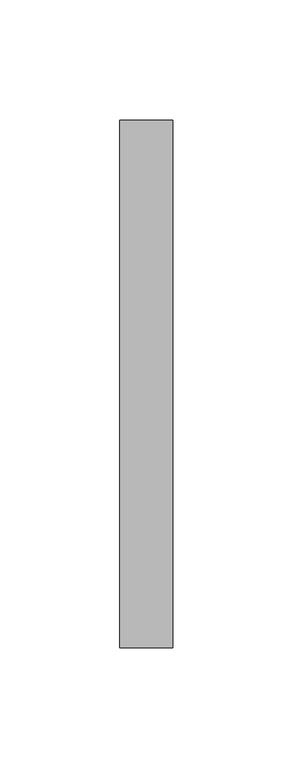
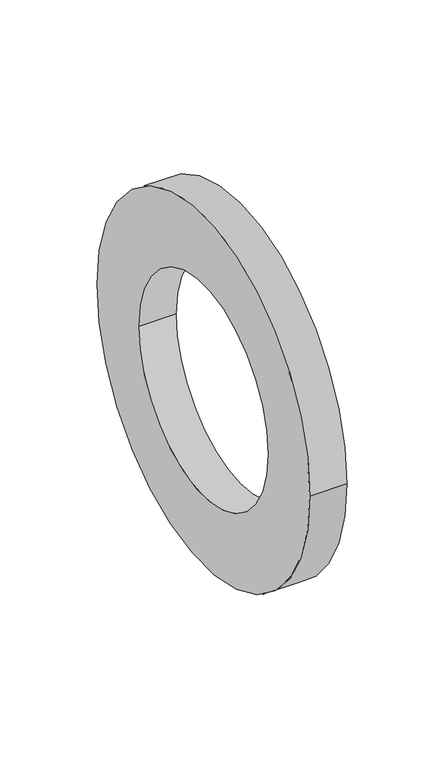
"""IFC4 building model written with IfcOpenShell, lengths in millimetres: pipe fitting geometry, NIRON accesorio brida : Estándar."""

from ifc_helpers import new_model, si_unit, point, frame, origin, origin_2d, place, context, project, spatial, circle_curve, trimmed, segment, composite_curve, outline, extrude, source, transform, mapped, element, save


def pipe_fitting_1a4fa0ee(model_context):
    return source(origin(), model_context, "Body", "SweptSolid", [
        extrude(outline(composite_curve([segment(trimmed(circle_curve(origin_2d(), 110.0), [point((110.0, 0.0))], [point((-110.0, 0.0))], False, "CARTESIAN"), True, "CONTINUOUS"), segment(trimmed(circle_curve(origin_2d(), 110.0), [point((-110.0, 0.0))], [point((110.0, 0.0))], False, "CARTESIAN"), True, "CONTINUOUS")], self_intersect=False), holes=[composite_curve([segment(trimmed(circle_curve(origin_2d(), 66.5), [point((66.5, 0.0))], [point((-66.5, 0.0))], True, "CARTESIAN"), True, "CONTINUOUS"), segment(trimmed(circle_curve(origin_2d(), 66.5), [point((-66.5, 0.0))], [point((66.5, 0.0))], True, "CARTESIAN"), True, "CONTINUOUS")], self_intersect=False)]), frame((2.4830127, 0.0, 0.0), z_axis=(1.0, 0.0, 0.0), x_axis=(0.0, 1.0, 0.0)), (0.0, 0.0, 1.0), 22.0),
    ])


if __name__ == "__main__":
    model = new_model("IFC4")
    model_context = context("Model", 3, world=origin())
    ifc_project = project(units=[si_unit("LENGTHUNIT", "METRE", prefix="MILLI")], contexts=[model_context])
    site = spatial("IfcSite", under=ifc_project)
    building = spatial("IfcBuilding", under=site)
    placement = place(None, origin())
    pipe_fitting_shape = pipe_fitting_1a4fa0ee(model_context)
    element("IfcPipeFitting", 1, ObjectType="NIRON accesorio brida : Estándar", at=placement, inside=building, context=model_context, shape_type="MappedRepresentation", body=[
        mapped(pipe_fitting_shape, transform((0.0, 0.0, 0.0), x_axis=(1.0, 0.0, 0.0), y_axis=(0.0, 1.0, 0.0), z_axis=(0.0, 0.0, 1.0))),
    ])
    save(model, "model.ifc")
